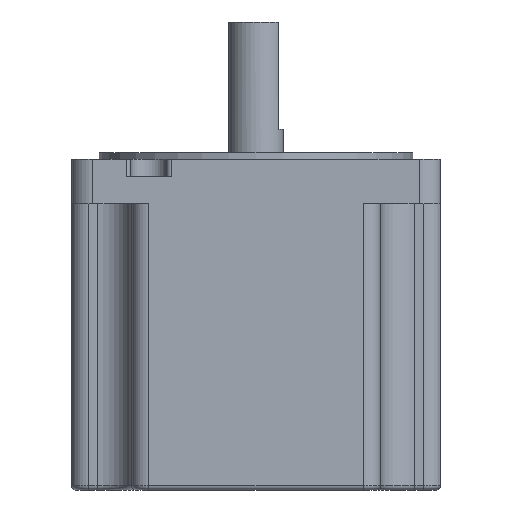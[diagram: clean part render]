
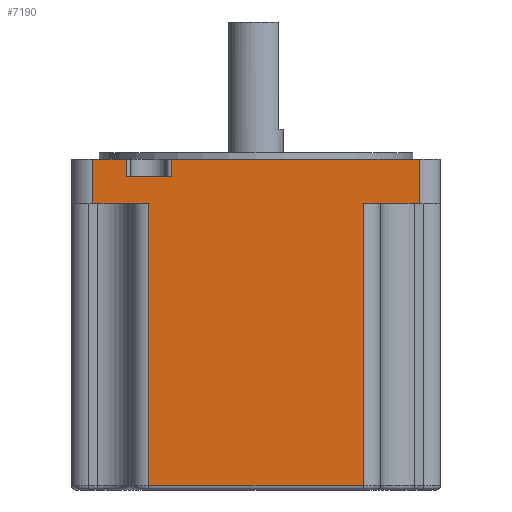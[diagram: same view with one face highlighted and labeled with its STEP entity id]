
A CAD part, front view. The second image highlights one B-rep face of the part: STEP entity #7190.
In plain terms, the highlighted planar face has unit normal (0, -1, 0).
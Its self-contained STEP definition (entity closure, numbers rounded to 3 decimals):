
#100=DIRECTION('',(0.,0.,-1.));
#101=VECTOR('',#100,65.7);
#102=CARTESIAN_POINT('',(68.,0.,49.7));
#103=LINE('',#102,#101);
#108=DIRECTION('',(-1.,0.,0.));
#109=VECTOR('',#108,7.75);
#110=CARTESIAN_POINT('',(12.75,0.,60.));
#111=LINE('',#110,#109);
#112=DIRECTION('',(-1.,0.,0.));
#113=VECTOR('',#112,57.75);
#114=CARTESIAN_POINT('',(81.,0.,60.));
#115=LINE('',#114,#113);
#120=DIRECTION('',(0.,0.,1.));
#121=VECTOR('',#120,65.7);
#122=CARTESIAN_POINT('',(18.,0.,-16.));
#123=LINE('',#122,#121);
#400=DIRECTION('',(0.,0.,-1.));
#401=VECTOR('',#400,10.3);
#402=CARTESIAN_POINT('',(81.,0.,60.));
#403=LINE('',#402,#401);
#427=DIRECTION('',(-1.,0.,0.));
#428=VECTOR('',#427,13.);
#429=CARTESIAN_POINT('',(81.,0.,49.7));
#430=LINE('',#429,#428);
#454=DIRECTION('',(0.,0.,1.));
#455=VECTOR('',#454,4.);
#456=CARTESIAN_POINT('',(23.25,0.,56.));
#457=LINE('',#456,#455);
#462=DIRECTION('',(1.,0.,0.));
#463=VECTOR('',#462,10.5);
#464=CARTESIAN_POINT('',(12.75,0.,56.));
#465=LINE('',#464,#463);
#496=DIRECTION('',(0.,0.,-1.));
#497=VECTOR('',#496,4.);
#498=CARTESIAN_POINT('',(12.75,0.,60.));
#499=LINE('',#498,#497);
#538=DIRECTION('',(0.,0.,1.));
#539=VECTOR('',#538,10.3);
#540=CARTESIAN_POINT('',(5.,0.,49.7));
#541=LINE('',#540,#539);
#546=DIRECTION('',(-1.,0.,0.));
#547=VECTOR('',#546,13.);
#548=CARTESIAN_POINT('',(18.,0.,49.7));
#549=LINE('',#548,#547);
#1170=DIRECTION('',(-1.,0.,0.));
#1171=VECTOR('',#1170,50.);
#1172=CARTESIAN_POINT('',(68.,0.,-16.));
#1173=LINE('',#1172,#1171);
#6023=CARTESIAN_POINT('',(12.75,0.,56.));
#6024=CARTESIAN_POINT('',(23.25,0.,56.));
#6025=VERTEX_POINT('',#6023);
#6026=VERTEX_POINT('',#6024);
#6083=CARTESIAN_POINT('',(5.,0.,60.));
#6084=VERTEX_POINT('',#6083);
#6085=CARTESIAN_POINT('',(12.75,0.,60.));
#6086=VERTEX_POINT('',#6085);
#6095=CARTESIAN_POINT('',(23.25,0.,60.));
#6096=VERTEX_POINT('',#6095);
#6097=CARTESIAN_POINT('',(81.,0.,60.));
#6098=VERTEX_POINT('',#6097);
#6151=CARTESIAN_POINT('',(18.,0.,-16.));
#6152=CARTESIAN_POINT('',(18.,0.,49.7));
#6153=VERTEX_POINT('',#6151);
#6154=VERTEX_POINT('',#6152);
#6155=CARTESIAN_POINT('',(68.,0.,-16.));
#6156=VERTEX_POINT('',#6155);
#6157=CARTESIAN_POINT('',(68.,0.,49.7));
#6158=VERTEX_POINT('',#6157);
#6159=CARTESIAN_POINT('',(81.,0.,49.7));
#6160=VERTEX_POINT('',#6159);
#6161=CARTESIAN_POINT('',(5.,0.,49.7));
#6162=VERTEX_POINT('',#6161);
#7160=CARTESIAN_POINT('',(0.,0.,60.));
#7161=DIRECTION('',(0.,1.,0.));
#7162=DIRECTION('',(-1.,0.,0.));
#7163=AXIS2_PLACEMENT_3D('',#7160,#7161,#7162);
#7164=PLANE('',#7163);
#7166=ORIENTED_EDGE('',*,*,#7165,.T.);
#7168=ORIENTED_EDGE('',*,*,#7167,.T.);
#7170=ORIENTED_EDGE('',*,*,#7169,.T.);
#7172=ORIENTED_EDGE('',*,*,#7171,.F.);
#7174=ORIENTED_EDGE('',*,*,#7173,.T.);
#7176=ORIENTED_EDGE('',*,*,#7175,.T.);
#7178=ORIENTED_EDGE('',*,*,#7177,.T.);
#7180=ORIENTED_EDGE('',*,*,#7179,.F.);
#7182=ORIENTED_EDGE('',*,*,#7181,.T.);
#7184=ORIENTED_EDGE('',*,*,#7183,.T.);
#7185=ORIENTED_EDGE('',*,*,#7150,.T.);
#7187=ORIENTED_EDGE('',*,*,#7186,.T.);
#7188=EDGE_LOOP('',(#7166,#7168,#7170,#7172,#7174,#7176,#7178,#7180,#7182,#7184,
#7185,#7187));
#7189=FACE_OUTER_BOUND('',#7188,.F.);
#7190=ADVANCED_FACE('',(#7189),#7164,.F.);
#7150=EDGE_CURVE('',#6158,#6156,#103,.T.);
#7165=EDGE_CURVE('',#6153,#6154,#123,.T.);
#7167=EDGE_CURVE('',#6154,#6162,#549,.T.);
#7169=EDGE_CURVE('',#6162,#6084,#541,.T.);
#7171=EDGE_CURVE('',#6086,#6084,#111,.T.);
#7173=EDGE_CURVE('',#6086,#6025,#499,.T.);
#7175=EDGE_CURVE('',#6025,#6026,#465,.T.);
#7177=EDGE_CURVE('',#6026,#6096,#457,.T.);
#7179=EDGE_CURVE('',#6098,#6096,#115,.T.);
#7181=EDGE_CURVE('',#6098,#6160,#403,.T.);
#7183=EDGE_CURVE('',#6160,#6158,#430,.T.);
#7186=EDGE_CURVE('',#6156,#6153,#1173,.T.);
